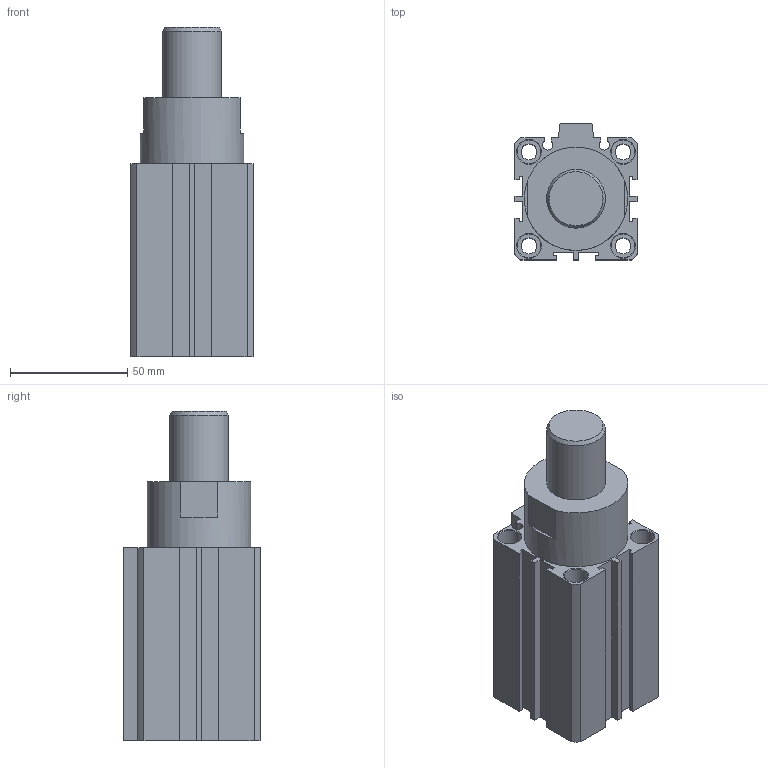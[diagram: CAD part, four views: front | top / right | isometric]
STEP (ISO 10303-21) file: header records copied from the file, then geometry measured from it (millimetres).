
FILE_DESCRIPTION((''),'2;1');
FILE_NAME('I:\3D電子目錄\氣缸\STB\STB\STB40\STB40x30.stp','2007-09-19T13:34:08',('Administrator'),(''),'Autodesk Inventor 11','Autodesk Inventor 11','');
FILE_SCHEMA(('AUTOMOTIVE_DESIGN { 1 0 10303 214 1 1 1 1 }'));
Length unit declared in the file: millimetre
Products named in the file (1): STB40
Bounding box: 52 x 58 x 140.2 mm (x, y, z)
Volume: 249422.4 mm3; surface area: 45044.9 mm2
Topology: 2 solids, 2 shells, 123 faces, 290 edges, 190 vertices
Faces by surface type: plane 76, cylinder 28, cone 15, bspline 3, torus 1
Full cylindrical faces by diameter (mm): 2.2 x2, 6.8 x4, 10 x8, 25 x1, 29 x1, 42 x2, 44 x2, 44.5 x2
Entity records: 3365 total; most frequent: CARTESIAN_POINT 616, DIRECTION 566, ORIENTED_EDGE 488, EDGE_CURVE 244, AXIS2_PLACEMENT_3D 201, EDGE_LOOP 192, VERTEX_POINT 184, VECTOR 164
